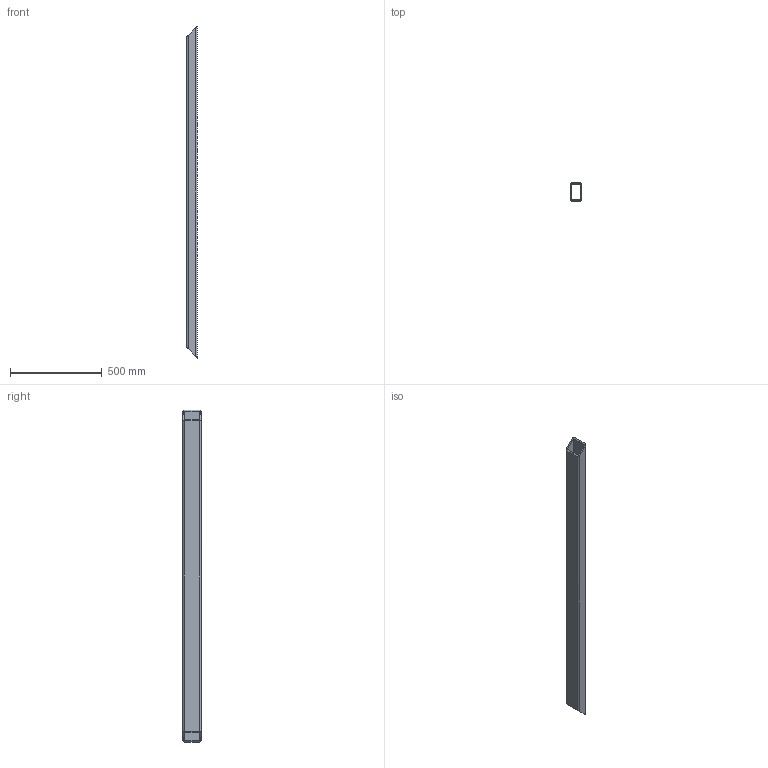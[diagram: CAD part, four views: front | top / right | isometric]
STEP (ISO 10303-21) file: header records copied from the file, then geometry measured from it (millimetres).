
FILE_DESCRIPTION(('Open CASCADE Model'),'2;1');
FILE_NAME('Open CASCADE Shape Model','2026-10-19T10:09:22',('Author'),( 'Open CASCADE'),'Open CASCADE STEP processor 8.0','Open CASCADE 8.0' ,'Unknown');
FILE_SCHEMA(('AUTOMOTIVE_DESIGN { 1 0 10303 214 1 1 1 1 }'));
Length unit declared in the file: millimetre
Products named in the file (1): HR_2p3124_4_FINAL_P05 147
Bounding box: 60 x 100 x 1812 mm (x, y, z)
Volume: 3134502.5 mm3; surface area: 1000140.5 mm2
Topology: 1 solids, 1 shells, 18 faces, 48 edges, 32 vertices
Faces by surface type: plane 10, cylinder 8
Entity records: 1350 total; most frequent: CARTESIAN_POINT 419, DIRECTION 166, ORIENTED_EDGE 96, LINE 96, VECTOR 96, PCURVE 96, DEFINITIONAL_REPRESENTATION 96, EDGE_CURVE 48
